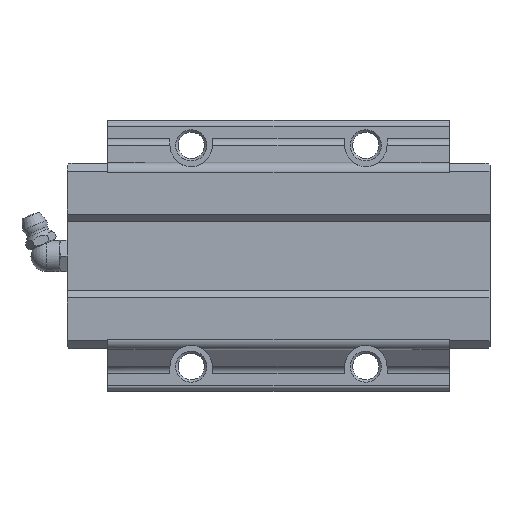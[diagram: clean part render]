
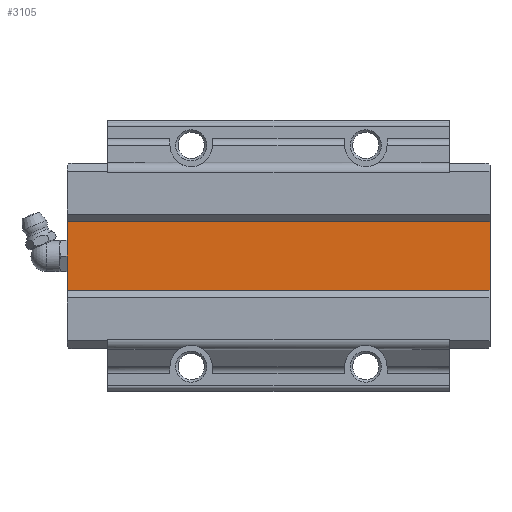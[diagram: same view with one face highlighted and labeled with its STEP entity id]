
A CAD part, front view. The second image highlights one B-rep face of the part: STEP entity #3105.
In plain terms, the highlighted planar face has unit normal (0, -1, 0).
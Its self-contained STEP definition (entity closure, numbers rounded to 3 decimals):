
#944=ORIENTED_EDGE('',*,*,#1253,.F.);
#945=ORIENTED_EDGE('',*,*,#1512,.F.);
#946=ORIENTED_EDGE('',*,*,#1190,.T.);
#947=ORIENTED_EDGE('',*,*,#1513,.T.);
#1190=EDGE_CURVE('',#1630,#1629,#1926,.T.);
#1253=EDGE_CURVE('',#1683,#1684,#1970,.T.);
#1512=EDGE_CURVE('',#1630,#1683,#2139,.T.);
#1513=EDGE_CURVE('',#1629,#1684,#2140,.T.);
#1629=VERTEX_POINT('',#4450);
#1630=VERTEX_POINT('',#4452);
#1683=VERTEX_POINT('',#4574);
#1684=VERTEX_POINT('',#4576);
#1926=LINE('',#4451,#2192);
#1970=LINE('',#4575,#2236);
#2139=LINE('',#5188,#2405);
#2140=LINE('',#5190,#2406);
#2192=VECTOR('',#3548,1000.);
#2236=VECTOR('',#3644,1000.);
#2405=VECTOR('',#4165,1000.);
#2406=VECTOR('',#4168,1000.);
#2581=EDGE_LOOP('',(#944,#945,#946,#947));
#2804=FACE_BOUND('',#2581,.T.);
#2956=PLANE('',#3407);
#3105=ADVANCED_FACE('',(#2804),#2956,.T.);
#3407=AXIS2_PLACEMENT_3D('',#5189,#4166,#4167);
#3548=DIRECTION('',(0.,0.,1.));
#3644=DIRECTION('',(0.,0.,1.));
#4165=DIRECTION('',(-1.,0.,0.));
#4166=DIRECTION('',(0.,-1.,0.));
#4167=DIRECTION('',(0.,0.,-1.));
#4168=DIRECTION('',(-1.,0.,0.));
#4450=CARTESIAN_POINT('',(54.5,14.2,9.323));
#4451=CARTESIAN_POINT('',(54.5,14.2,-9.323));
#4452=CARTESIAN_POINT('',(54.5,14.2,-9.323));
#4574=CARTESIAN_POINT('',(-54.5,14.2,-9.323));
#4575=CARTESIAN_POINT('',(-54.5,14.2,-9.323));
#4576=CARTESIAN_POINT('',(-54.5,14.2,9.323));
#5188=CARTESIAN_POINT('',(54.5,14.2,-9.323));
#5189=CARTESIAN_POINT('',(54.5,14.2,-9.323));
#5190=CARTESIAN_POINT('',(54.5,14.2,9.323));
